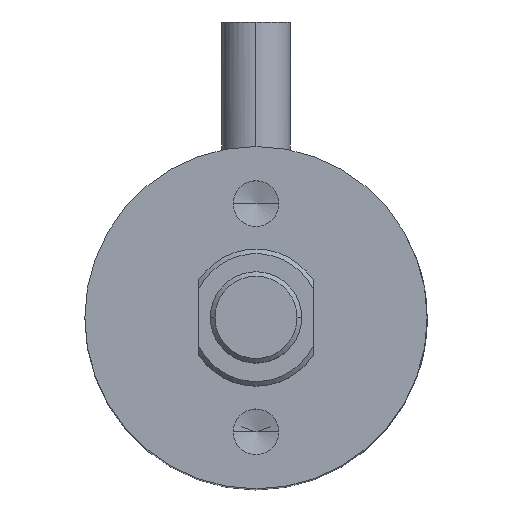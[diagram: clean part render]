
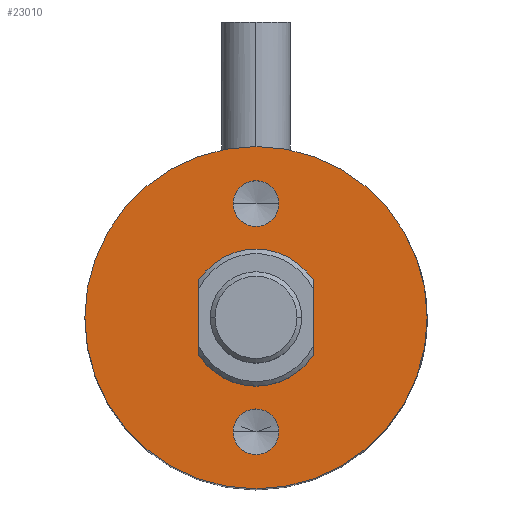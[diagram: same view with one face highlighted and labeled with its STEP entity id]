
A CAD part, top view. The second image highlights one B-rep face of the part: STEP entity #23010.
In plain terms, the highlighted planar face has unit normal (0, 0, 1).
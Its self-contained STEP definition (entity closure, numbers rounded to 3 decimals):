
#1028 = CARTESIAN_POINT ( 'NONE',  ( 0., 0., 28.5 ) ) ;
#1452 = EDGE_CURVE ( 'NONE', #26774, #51323, #12223, .T. ) ;
#1699 = FACE_BOUND ( 'NONE', #14317, .T. ) ;
#2082 = EDGE_CURVE ( 'NONE', #37116, #32671, #37596, .T. ) ;
#2265 = CIRCLE ( 'NONE', #3761, 1. ) ;
#2638 = DIRECTION ( 'NONE',  ( 0., 0., 1. ) ) ;
#2936 = EDGE_CURVE ( 'NONE', #22401, #27987, #21503, .T. ) ;
#3761 = AXIS2_PLACEMENT_3D ( 'NONE', #6789, #18744, #4020 ) ;
#4020 = DIRECTION ( 'NONE',  ( 1., 0., 0. ) ) ;
#4851 = DIRECTION ( 'NONE',  ( 0., -1., 0. ) ) ;
#5162 = DIRECTION ( 'NONE',  ( 0., 0., 1. ) ) ;
#6564 = EDGE_CURVE ( 'NONE', #26774, #41025, #22793, .T. ) ;
#6789 = CARTESIAN_POINT ( 'NONE',  ( 0., 5., 28.5 ) ) ;
#7491 = ORIENTED_EDGE ( 'NONE', *, *, #15030, .T. ) ;
#8150 = ORIENTED_EDGE ( 'NONE', *, *, #15601, .T. ) ;
#8476 = CARTESIAN_POINT ( 'NONE',  ( -7.5, 0., 28.5 ) ) ;
#9338 = AXIS2_PLACEMENT_3D ( 'NONE', #49752, #45586, #33959 ) ;
#9599 = LINE ( 'NONE', #18667, #50511 ) ;
#10216 = CARTESIAN_POINT ( 'NONE',  ( -1., -5., 28.5 ) ) ;
#11495 = AXIS2_PLACEMENT_3D ( 'NONE', #1028, #5162, #36640 ) ;
#12223 = CIRCLE ( 'NONE', #47282, 3. ) ;
#12673 = CARTESIAN_POINT ( 'NONE',  ( 0., 5., 28.5 ) ) ;
#12773 = AXIS2_PLACEMENT_3D ( 'NONE', #31324, #51253, #50578 ) ;
#14317 = EDGE_LOOP ( 'NONE', ( #23123, #23355, #8150, #27466 ) ) ;
#14687 = FACE_BOUND ( 'NONE', #29041, .T. ) ;
#15030 = EDGE_CURVE ( 'NONE', #32671, #37116, #44263, .T. ) ;
#15560 = DIRECTION ( 'NONE',  ( 1., 0., 0. ) ) ;
#15601 = EDGE_CURVE ( 'NONE', #17828, #51323, #9599, .T. ) ;
#16710 = CARTESIAN_POINT ( 'NONE',  ( 1., -5., 28.5 ) ) ;
#16738 = ORIENTED_EDGE ( 'NONE', *, *, #17016, .F. ) ;
#17016 = EDGE_CURVE ( 'NONE', #27987, #22401, #32491, .T. ) ;
#17828 = VERTEX_POINT ( 'NONE', #35032 ) ;
#17951 = AXIS2_PLACEMENT_3D ( 'NONE', #44607, #20913, #48599 ) ;
#18667 = CARTESIAN_POINT ( 'NONE',  ( -2.5, -6.39, 28.5 ) ) ;
#18744 = DIRECTION ( 'NONE',  ( 0., 0., 1. ) ) ;
#19014 = DIRECTION ( 'NONE',  ( 0., 1., 0. ) ) ;
#19026 = FACE_BOUND ( 'NONE', #43395, .T. ) ;
#20260 = CARTESIAN_POINT ( 'NONE',  ( 2.5, -6.39, 28.5 ) ) ;
#20634 = DIRECTION ( 'NONE',  ( 1., 0., 0. ) ) ;
#20913 = DIRECTION ( 'NONE',  ( 0., 0., 1. ) ) ;
#21503 = CIRCLE ( 'NONE', #34656, 1. ) ;
#21761 = VERTEX_POINT ( 'NONE', #41814 ) ;
#22401 = VERTEX_POINT ( 'NONE', #16710 ) ;
#22421 = ORIENTED_EDGE ( 'NONE', *, *, #2936, .F. ) ;
#22536 = CARTESIAN_POINT ( 'NONE',  ( 2.5, -1.658, 28.5 ) ) ;
#22552 = DIRECTION ( 'NONE',  ( 1., 0., 0. ) ) ;
#22793 = LINE ( 'NONE', #20260, #38779 ) ;
#23010 = ADVANCED_FACE ( 'NONE', ( #1699, #23345, #19026, #14687 ), #41905, .T. ) ;
#23123 = ORIENTED_EDGE ( 'NONE', *, *, #6564, .T. ) ;
#23345 = FACE_OUTER_BOUND ( 'NONE', #24220, .T. ) ;
#23355 = ORIENTED_EDGE ( 'NONE', *, *, #33699, .F. ) ;
#24220 = EDGE_LOOP ( 'NONE', ( #42181, #7491 ) ) ;
#25589 = VERTEX_POINT ( 'NONE', #47745 ) ;
#26324 = CARTESIAN_POINT ( 'NONE',  ( 0., 0., 28.5 ) ) ;
#26606 = EDGE_CURVE ( 'NONE', #25589, #21761, #2265, .T. ) ;
#26774 = VERTEX_POINT ( 'NONE', #40906 ) ;
#27466 = ORIENTED_EDGE ( 'NONE', *, *, #1452, .F. ) ;
#27987 = VERTEX_POINT ( 'NONE', #10216 ) ;
#29041 = EDGE_LOOP ( 'NONE', ( #37985, #37894 ) ) ;
#30319 = DIRECTION ( 'NONE',  ( 1., 0., 0. ) ) ;
#31324 = CARTESIAN_POINT ( 'NONE',  ( 0., 0., 28.5 ) ) ;
#31816 = DIRECTION ( 'NONE',  ( 0., 0., 1. ) ) ;
#32491 = CIRCLE ( 'NONE', #17951, 1. ) ;
#32671 = VERTEX_POINT ( 'NONE', #40461 ) ;
#33699 = EDGE_CURVE ( 'NONE', #17828, #41025, #35514, .T. ) ;
#33959 = DIRECTION ( 'NONE',  ( 1., 0., 0. ) ) ;
#34656 = AXIS2_PLACEMENT_3D ( 'NONE', #50583, #46762, #22552 ) ;
#35032 = CARTESIAN_POINT ( 'NONE',  ( -2.5, -1.658, 28.5 ) ) ;
#35125 = AXIS2_PLACEMENT_3D ( 'NONE', #26324, #2638, #30319 ) ;
#35514 = CIRCLE ( 'NONE', #11495, 3. ) ;
#36341 = CIRCLE ( 'NONE', #41692, 1. ) ;
#36640 = DIRECTION ( 'NONE',  ( 1., 0., 0. ) ) ;
#37116 = VERTEX_POINT ( 'NONE', #8476 ) ;
#37596 = CIRCLE ( 'NONE', #12773, 7.5 ) ;
#37894 = ORIENTED_EDGE ( 'NONE', *, *, #49840, .F. ) ;
#37985 = ORIENTED_EDGE ( 'NONE', *, *, #26606, .F. ) ;
#38779 = VECTOR ( 'NONE', #4851, 1000. ) ;
#39257 = CARTESIAN_POINT ( 'NONE',  ( 0., 0., 28.5 ) ) ;
#40461 = CARTESIAN_POINT ( 'NONE',  ( 7.5, 0., 28.5 ) ) ;
#40906 = CARTESIAN_POINT ( 'NONE',  ( 2.5, 1.658, 28.5 ) ) ;
#41025 = VERTEX_POINT ( 'NONE', #22536 ) ;
#41692 = AXIS2_PLACEMENT_3D ( 'NONE', #12673, #44336, #20634 ) ;
#41814 = CARTESIAN_POINT ( 'NONE',  ( -1., 5., 28.5 ) ) ;
#41905 = PLANE ( 'NONE',  #9338 ) ;
#42181 = ORIENTED_EDGE ( 'NONE', *, *, #2082, .T. ) ;
#43395 = EDGE_LOOP ( 'NONE', ( #22421, #16738 ) ) ;
#44263 = CIRCLE ( 'NONE', #35125, 7.5 ) ;
#44336 = DIRECTION ( 'NONE',  ( 0., 0., 1. ) ) ;
#44517 = CARTESIAN_POINT ( 'NONE',  ( -2.5, 1.658, 28.5 ) ) ;
#44607 = CARTESIAN_POINT ( 'NONE',  ( 0., -5., 28.5 ) ) ;
#45586 = DIRECTION ( 'NONE',  ( 0., 0., 1. ) ) ;
#46762 = DIRECTION ( 'NONE',  ( 0., 0., 1. ) ) ;
#47282 = AXIS2_PLACEMENT_3D ( 'NONE', #39257, #31816, #15560 ) ;
#47745 = CARTESIAN_POINT ( 'NONE',  ( 1., 5., 28.5 ) ) ;
#48599 = DIRECTION ( 'NONE',  ( 1., 0., 0. ) ) ;
#49752 = CARTESIAN_POINT ( 'NONE',  ( 0., 0., 28.5 ) ) ;
#49840 = EDGE_CURVE ( 'NONE', #21761, #25589, #36341, .T. ) ;
#50511 = VECTOR ( 'NONE', #19014, 1000. ) ;
#50578 = DIRECTION ( 'NONE',  ( 1., 0., 0. ) ) ;
#50583 = CARTESIAN_POINT ( 'NONE',  ( 0., -5., 28.5 ) ) ;
#51253 = DIRECTION ( 'NONE',  ( 0., 0., 1. ) ) ;
#51323 = VERTEX_POINT ( 'NONE', #44517 ) ;
